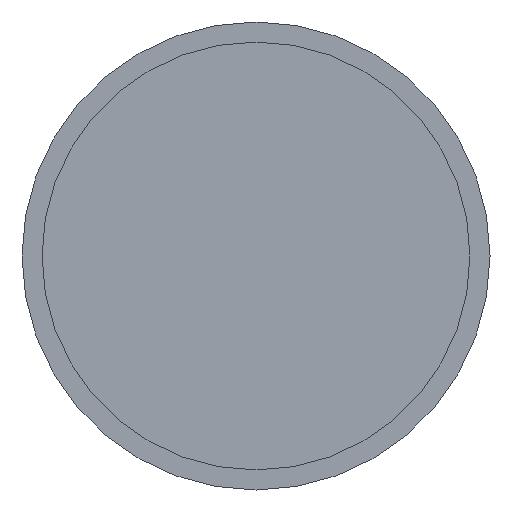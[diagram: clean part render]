
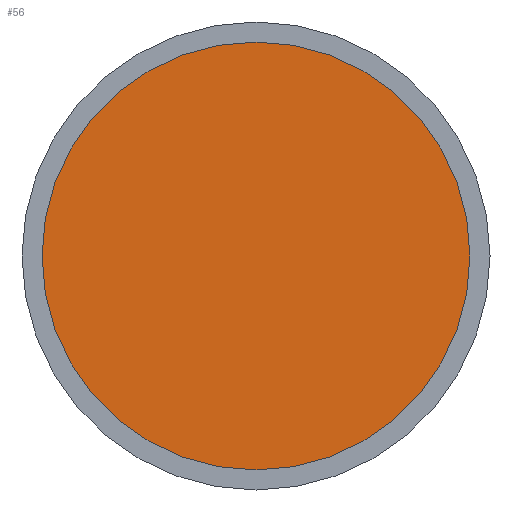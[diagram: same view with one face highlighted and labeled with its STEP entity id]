
A CAD part, front view. The second image highlights one B-rep face of the part: STEP entity #56.
In plain terms, the highlighted planar face has unit normal (0, -1, 0).
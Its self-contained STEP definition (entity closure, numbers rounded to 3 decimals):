
#56=ADVANCED_FACE('',(#93),#95,.T.);
#93=FACE_BOUND('',#94,.T.);
#94=EDGE_LOOP('',(#204));
#95=PLANE('',#96);
#96=AXIS2_PLACEMENT_3D('',#97,#98,#99);
#97=CARTESIAN_POINT('',(0.,-57.,0.));
#98=DIRECTION('',(0.,-1.,0.));
#99=DIRECTION('',(0.,0.,-1.));
#204=ORIENTED_EDGE('',*,*,#229,.T.);
#229=EDGE_CURVE('',#244,#244,#245,.T.);
#244=VERTEX_POINT('',#274);
#245=CIRCLE('',#275,16.);
#274=CARTESIAN_POINT('',(0.,-57.,16.));
#275=AXIS2_PLACEMENT_3D('',#276,#277,#278);
#276=CARTESIAN_POINT('',(0.,-57.,0.));
#277=DIRECTION('',(0.,-1.,0.));
#278=DIRECTION('',(0.,0.,1.));
